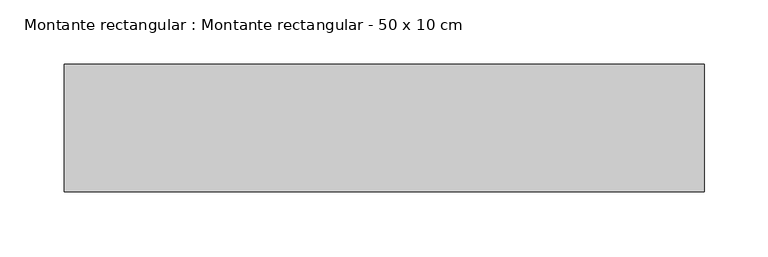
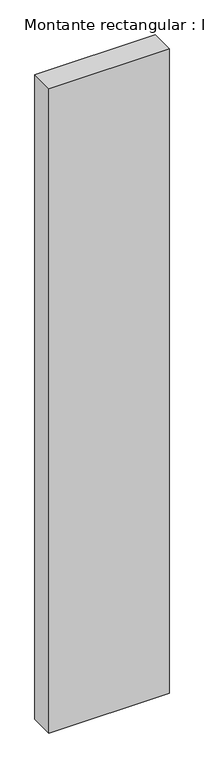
"""IFC4 building model written with IfcOpenShell, lengths in millimetres: member geometry, Montante rectangular : Montante rectangular - 50 x 10 cm."""

from ifc_helpers import new_model, si_unit, frame, origin, place, context, project, spatial, polyline, outline, extrude, source, transform, mapped, element, save


def montante_rectangular_montante_rectangular_50_x_10_cm_6a0f9e60(model_context):
    return source(origin(), model_context, "Body", "SweptSolid", [
        extrude(outline(polyline([(-500.0, -50.0), (-500.0, 50.0), (0.0, 50.0), (0.0, -50.0), (-500.0, -50.0)])), frame((0.0, 0.0, -2833.4047241), z_axis=(0.0, 0.0, 1.0), x_axis=(1.0, 0.0, 0.0)), (0.0, 0.0, 1.0), 2833.4047241),
    ])


if __name__ == "__main__":
    model = new_model("IFC4")
    model_context = context("Model", 3, world=origin())
    ifc_project = project(units=[si_unit("LENGTHUNIT", "METRE", prefix="MILLI")], contexts=[model_context])
    site = spatial("IfcSite", under=ifc_project)
    building = spatial("IfcBuilding", under=site)
    placement = place(None, origin())
    montante_rectangular_montante_rectangular_50_x_10_cm_shape = montante_rectangular_montante_rectangular_50_x_10_cm_6a0f9e60(model_context)
    element("IfcMember", 1, ObjectType="Montante rectangular : Montante rectangular - 50 x 10 cm", at=placement, inside=building, context=model_context, shape_type="MappedRepresentation", body=[
        mapped(montante_rectangular_montante_rectangular_50_x_10_cm_shape, transform((0.0, 0.0, 0.0), x_axis=(1.0, 0.0, 0.0), y_axis=(0.0, 1.0, 0.0), z_axis=(0.0, 0.0, 1.0))),
    ])
    save(model, "model.ifc")
